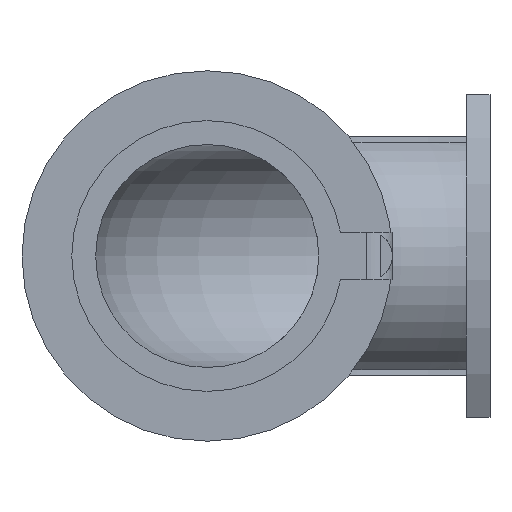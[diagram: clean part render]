
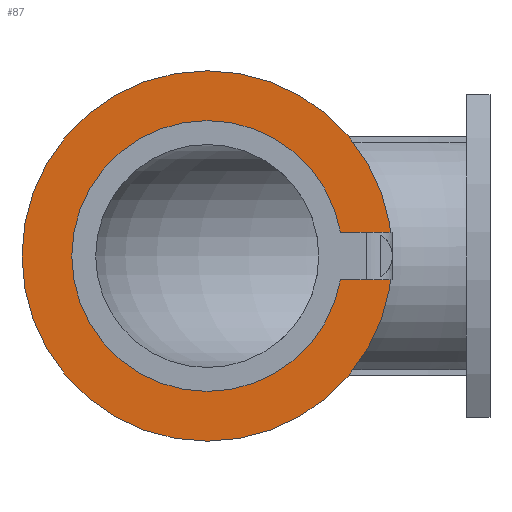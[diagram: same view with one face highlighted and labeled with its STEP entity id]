
A CAD part, front view. The second image highlights one B-rep face of the part: STEP entity #87.
In plain terms, the highlighted planar face has unit normal (0, -1, 0).
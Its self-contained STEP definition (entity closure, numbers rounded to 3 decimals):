
#87 = ADVANCED_FACE( '', ( #202, #203 ), #204, .T. );
#202 = FACE_OUTER_BOUND( '', #361, .T. );
#203 = FACE_BOUND( '', #362, .T. );
#204 = PLANE( '', #363 );
#361 = EDGE_LOOP( '', ( #568 ) );
#362 = EDGE_LOOP( '', ( #569, #570, #571, #572, #573, #574 ) );
#363 = AXIS2_PLACEMENT_3D( '', #575, #576, #577 );
#568 = ORIENTED_EDGE( '', *, *, #898, .T. );
#569 = ORIENTED_EDGE( '', *, *, #868, .F. );
#570 = ORIENTED_EDGE( '', *, *, #899, .T. );
#571 = ORIENTED_EDGE( '', *, *, #872, .F. );
#572 = ORIENTED_EDGE( '', *, *, #900, .T. );
#573 = ORIENTED_EDGE( '', *, *, #885, .F. );
#574 = ORIENTED_EDGE( '', *, *, #896, .F. );
#575 = CARTESIAN_POINT( '', ( 34., -78., 0. ) );
#576 = DIRECTION( '', ( 0., -1., 0. ) );
#577 = DIRECTION( '', ( 0., 0., -1. ) );
#868 = EDGE_CURVE( '', #1023, #1026, #1027, .F. );
#872 = EDGE_CURVE( '', #1032, #1024, #1034, .F. );
#885 = EDGE_CURVE( '', #1052, #1055, #1056, .T. );
#896 = EDGE_CURVE( '', #1026, #1052, #1071, .T. );
#898 = EDGE_CURVE( '', #1073, #1073, #1074, .T. );
#899 = EDGE_CURVE( '', #1023, #1024, #1075, .F. );
#900 = EDGE_CURVE( '', #1032, #1055, #1076, .T. );
#1023 = VERTEX_POINT( '', #1349 );
#1024 = VERTEX_POINT( '', #1350 );
#1026 = VERTEX_POINT( '', #1391 );
#1027 = LINE( '', #1392, #1393 );
#1032 = VERTEX_POINT( '', #1399 );
#1034 = LINE( '', #1401, #1402 );
#1052 = VERTEX_POINT( '', #1487 );
#1055 = VERTEX_POINT( '', #1491 );
#1056 = CIRCLE( '', #1492, 34. );
#1071 = LINE( '', #1569, #1570 );
#1073 = VERTEX_POINT( '', #1572 );
#1074 = CIRCLE( '', #1573, 46.5 );
#1075 = CIRCLE( '', #1574, 4. );
#1076 = LINE( '', #1575, #1576 );
#1349 = CARTESIAN_POINT( '', ( 39.9, -78., 3.955 ) );
#1350 = CARTESIAN_POINT( '', ( 39.9, -78., -3.955 ) );
#1391 = CARTESIAN_POINT( '', ( 39.9, -78., 6. ) );
#1392 = CARTESIAN_POINT( '', ( 39.9, -78., 6. ) );
#1393 = VECTOR( '', #1966, 1000. );
#1399 = CARTESIAN_POINT( '', ( 39.9, -78., -6. ) );
#1401 = CARTESIAN_POINT( '', ( 39.9, -78., 6. ) );
#1402 = VECTOR( '', #1974, 1000. );
#1487 = CARTESIAN_POINT( '', ( 33.466, -78., 6. ) );
#1491 = CARTESIAN_POINT( '', ( 33.466, -78., -6. ) );
#1492 = AXIS2_PLACEMENT_3D( '', #1986, #1987, #1988 );
#1569 = CARTESIAN_POINT( '', ( 39.9, -78., 6. ) );
#1570 = VECTOR( '', #2000, 1000. );
#1572 = CARTESIAN_POINT( '', ( 0., -78., -46.5 ) );
#1573 = AXIS2_PLACEMENT_3D( '', #2001, #2002, #2003 );
#1574 = AXIS2_PLACEMENT_3D( '', #2004, #2005, #2006 );
#1575 = CARTESIAN_POINT( '', ( 39.9, -78., -6. ) );
#1576 = VECTOR( '', #2007, 1000. );
#1966 = DIRECTION( '', ( 0., 0., -1. ) );
#1974 = DIRECTION( '', ( 0., 0., -1. ) );
#1986 = CARTESIAN_POINT( '', ( 0., -78., 0. ) );
#1987 = DIRECTION( '', ( 0., -1., 0. ) );
#1988 = DIRECTION( '', ( 0., 0., -1. ) );
#2000 = DIRECTION( '', ( -1., 0., 0. ) );
#2001 = CARTESIAN_POINT( '', ( 0., -78., 0. ) );
#2002 = DIRECTION( '', ( 0., -1., 0. ) );
#2003 = DIRECTION( '', ( 0., 0., -1. ) );
#2004 = CARTESIAN_POINT( '', ( 40.5, -78., 0. ) );
#2005 = DIRECTION( '', ( 0., -1., 0. ) );
#2006 = DIRECTION( '', ( 0., 0., -1. ) );
#2007 = DIRECTION( '', ( -1., 0., 0. ) );
